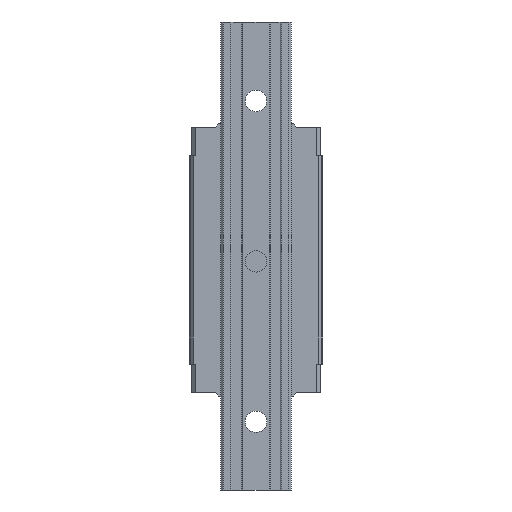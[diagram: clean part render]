
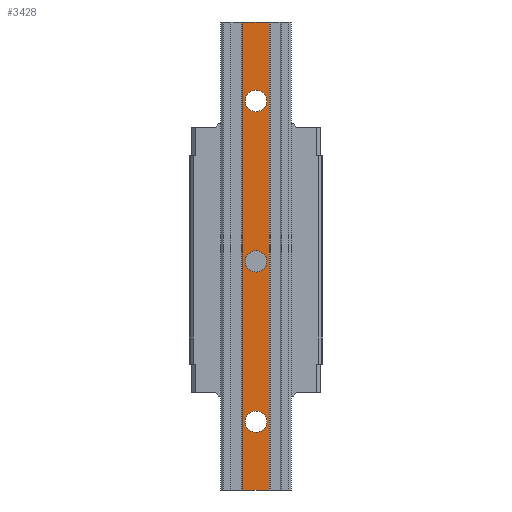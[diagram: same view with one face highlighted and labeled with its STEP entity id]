
A CAD part, front view. The second image highlights one B-rep face of the part: STEP entity #3428.
In plain terms, the highlighted planar face has unit normal (0, -1, 0).
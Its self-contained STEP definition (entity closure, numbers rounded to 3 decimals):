
#34 = CIRCLE ( 'NONE', #5709, 8. ) ;
#261 = CARTESIAN_POINT ( 'NONE',  ( 0., -44., -87. ) ) ;
#400 = VERTEX_POINT ( 'NONE', #5593 ) ;
#461 = DIRECTION ( 'NONE',  ( 0., 1., 0. ) ) ;
#540 = VECTOR ( 'NONE', #5936, 1000. ) ;
#617 = DIRECTION ( 'NONE',  ( 0., 0., 1. ) ) ;
#651 = VERTEX_POINT ( 'NONE', #4285 ) ;
#685 = DIRECTION ( 'NONE',  ( 0., 0., 1. ) ) ;
#735 = VECTOR ( 'NONE', #2583, 1000. ) ;
#768 = CARTESIAN_POINT ( 'NONE',  ( 19.5, -44., 100. ) ) ;
#804 = VERTEX_POINT ( 'NONE', #3207 ) ;
#818 = CARTESIAN_POINT ( 'NONE',  ( 0., -44., -79. ) ) ;
#963 = CARTESIAN_POINT ( 'NONE',  ( 9.8, -44., 100. ) ) ;
#1043 = CARTESIAN_POINT ( 'NONE',  ( 0., -44., 49. ) ) ;
#1104 = PLANE ( 'NONE',  #2444 ) ;
#1137 = CARTESIAN_POINT ( 'NONE',  ( 9.8, -44., -250. ) ) ;
#1274 = DIRECTION ( 'NONE',  ( 1., 0., 0. ) ) ;
#1297 = CARTESIAN_POINT ( 'NONE',  ( 0., -44., 41. ) ) ;
#1408 = CARTESIAN_POINT ( 'NONE',  ( 0., -44., -191. ) ) ;
#1412 = EDGE_LOOP ( 'NONE', ( #5572, #4178, #5663, #2507 ) ) ;
#1511 = VERTEX_POINT ( 'NONE', #2636 ) ;
#1600 = VERTEX_POINT ( 'NONE', #1043 ) ;
#1747 = EDGE_CURVE ( 'NONE', #6800, #1600, #7119, .T. ) ;
#1925 = DIRECTION ( 'NONE',  ( 0., 1., 0. ) ) ;
#1951 = CARTESIAN_POINT ( 'NONE',  ( 19.5, -44., -250. ) ) ;
#2029 = EDGE_CURVE ( 'NONE', #1600, #6800, #2467, .T. ) ;
#2255 = ORIENTED_EDGE ( 'NONE', *, *, #2029, .T. ) ;
#2315 = AXIS2_PLACEMENT_3D ( 'NONE', #5604, #2952, #3621 ) ;
#2324 = EDGE_CURVE ( 'NONE', #8038, #3375, #7184, .T. ) ;
#2340 = DIRECTION ( 'NONE',  ( 0., 1., 0. ) ) ;
#2343 = VECTOR ( 'NONE', #1274, 1000. ) ;
#2444 = AXIS2_PLACEMENT_3D ( 'NONE', #8703, #5241, #2661 ) ;
#2467 = CIRCLE ( 'NONE', #8098, 8. ) ;
#2471 = EDGE_CURVE ( 'NONE', #400, #7104, #34, .T. ) ;
#2507 = ORIENTED_EDGE ( 'NONE', *, *, #2518, .T. ) ;
#2518 = EDGE_CURVE ( 'NONE', #651, #1511, #6590, .T. ) ;
#2555 = CARTESIAN_POINT ( 'NONE',  ( 0., -44., -79. ) ) ;
#2583 = DIRECTION ( 'NONE',  ( 0., 0., 1. ) ) ;
#2636 = CARTESIAN_POINT ( 'NONE',  ( -9.8, -44., -250. ) ) ;
#2651 = EDGE_CURVE ( 'NONE', #8713, #804, #6436, .T. ) ;
#2661 = DIRECTION ( 'NONE',  ( 0., 0., -1. ) ) ;
#2952 = DIRECTION ( 'NONE',  ( 0., 1., 0. ) ) ;
#2977 = EDGE_CURVE ( 'NONE', #8038, #1511, #5838, .T. ) ;
#2981 = FACE_OUTER_BOUND ( 'NONE', #1412, .T. ) ;
#3160 = CIRCLE ( 'NONE', #5003, 8. ) ;
#3207 = CARTESIAN_POINT ( 'NONE',  ( 0., -44., -71. ) ) ;
#3375 = VERTEX_POINT ( 'NONE', #963 ) ;
#3428 = ADVANCED_FACE ( 'NONE', ( #3746, #4503, #7181, #2981 ), #1104, .T. ) ;
#3524 = ORIENTED_EDGE ( 'NONE', *, *, #2651, .T. ) ;
#3621 = DIRECTION ( 'NONE',  ( 0., 0., 1. ) ) ;
#3623 = AXIS2_PLACEMENT_3D ( 'NONE', #818, #2340, #7639 ) ;
#3629 = AXIS2_PLACEMENT_3D ( 'NONE', #5484, #6798, #685 ) ;
#3746 = FACE_BOUND ( 'NONE', #7613, .T. ) ;
#3867 = ORIENTED_EDGE ( 'NONE', *, *, #2471, .T. ) ;
#4178 = ORIENTED_EDGE ( 'NONE', *, *, #2324, .T. ) ;
#4285 = CARTESIAN_POINT ( 'NONE',  ( -9.8, -44., 100. ) ) ;
#4503 = FACE_BOUND ( 'NONE', #5247, .T. ) ;
#5003 = AXIS2_PLACEMENT_3D ( 'NONE', #2555, #7387, #7931 ) ;
#5241 = DIRECTION ( 'NONE',  ( 0., -1., 0. ) ) ;
#5247 = EDGE_LOOP ( 'NONE', ( #8449, #3524 ) ) ;
#5484 = CARTESIAN_POINT ( 'NONE',  ( 0., -44., -199. ) ) ;
#5572 = ORIENTED_EDGE ( 'NONE', *, *, #2977, .F. ) ;
#5593 = CARTESIAN_POINT ( 'NONE',  ( 0., -44., -207. ) ) ;
#5596 = CIRCLE ( 'NONE', #3629, 8. ) ;
#5604 = CARTESIAN_POINT ( 'NONE',  ( 0., -44., 41. ) ) ;
#5663 = ORIENTED_EDGE ( 'NONE', *, *, #8266, .F. ) ;
#5709 = AXIS2_PLACEMENT_3D ( 'NONE', #8481, #461, #8614 ) ;
#5742 = ORIENTED_EDGE ( 'NONE', *, *, #1747, .T. ) ;
#5795 = DIRECTION ( 'NONE',  ( 0., 0., -1. ) ) ;
#5838 = LINE ( 'NONE', #1951, #540 ) ;
#5850 = EDGE_CURVE ( 'NONE', #804, #8713, #3160, .T. ) ;
#5936 = DIRECTION ( 'NONE',  ( -1., 0., 0. ) ) ;
#5942 = CARTESIAN_POINT ( 'NONE',  ( 9.8, -44., -200. ) ) ;
#6436 = CIRCLE ( 'NONE', #3623, 8. ) ;
#6590 = LINE ( 'NONE', #7873, #7262 ) ;
#6798 = DIRECTION ( 'NONE',  ( 0., 1., 0. ) ) ;
#6800 = VERTEX_POINT ( 'NONE', #7795 ) ;
#7104 = VERTEX_POINT ( 'NONE', #1408 ) ;
#7119 = CIRCLE ( 'NONE', #2315, 8. ) ;
#7181 = FACE_BOUND ( 'NONE', #7658, .T. ) ;
#7184 = LINE ( 'NONE', #5942, #735 ) ;
#7238 = ORIENTED_EDGE ( 'NONE', *, *, #8144, .T. ) ;
#7262 = VECTOR ( 'NONE', #5795, 1000. ) ;
#7328 = LINE ( 'NONE', #768, #2343 ) ;
#7387 = DIRECTION ( 'NONE',  ( 0., 1., 0. ) ) ;
#7613 = EDGE_LOOP ( 'NONE', ( #2255, #5742 ) ) ;
#7639 = DIRECTION ( 'NONE',  ( 0., 0., 1. ) ) ;
#7658 = EDGE_LOOP ( 'NONE', ( #7238, #3867 ) ) ;
#7795 = CARTESIAN_POINT ( 'NONE',  ( 0., -44., 33. ) ) ;
#7873 = CARTESIAN_POINT ( 'NONE',  ( -9.8, -44., -200. ) ) ;
#7931 = DIRECTION ( 'NONE',  ( 0., 0., 1. ) ) ;
#8038 = VERTEX_POINT ( 'NONE', #1137 ) ;
#8098 = AXIS2_PLACEMENT_3D ( 'NONE', #1297, #1925, #617 ) ;
#8144 = EDGE_CURVE ( 'NONE', #7104, #400, #5596, .T. ) ;
#8266 = EDGE_CURVE ( 'NONE', #651, #3375, #7328, .T. ) ;
#8449 = ORIENTED_EDGE ( 'NONE', *, *, #5850, .T. ) ;
#8481 = CARTESIAN_POINT ( 'NONE',  ( 0., -44., -199. ) ) ;
#8614 = DIRECTION ( 'NONE',  ( 0., 0., 1. ) ) ;
#8703 = CARTESIAN_POINT ( 'NONE',  ( -9.8, -44., -200. ) ) ;
#8713 = VERTEX_POINT ( 'NONE', #261 ) ;
